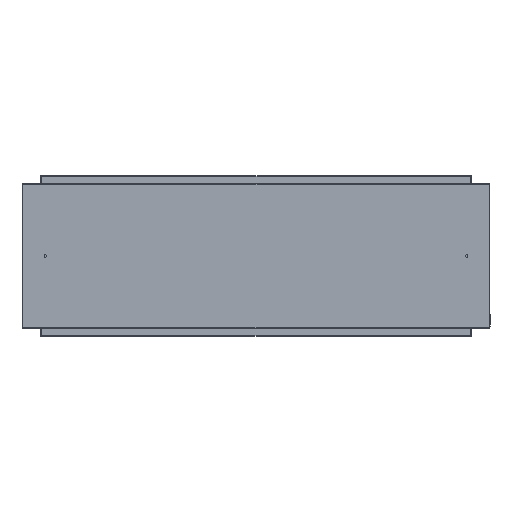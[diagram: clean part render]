
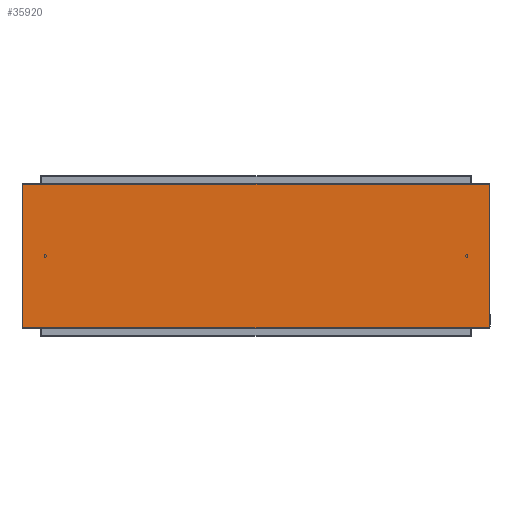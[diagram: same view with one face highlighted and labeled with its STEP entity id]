
A CAD part, left-side view. The second image highlights one B-rep face of the part: STEP entity #35920.
In plain terms, the highlighted planar face has unit normal (-1, 0, 0) as drawn and (0, 0, -1) by its records, which use the part's own axes.
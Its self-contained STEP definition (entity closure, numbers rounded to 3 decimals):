
#4226 = EDGE_LOOP ( 'NONE', ( #16813, #35902, #54496, #31749 ) ) ;
#7118 = CARTESIAN_POINT ( 'NONE',  ( -183.49, 598.5, 0. ) ) ;
#10477 = VECTOR ( 'NONE', #44167, 1000. ) ;
#10802 = CARTESIAN_POINT ( 'NONE',  ( -183.49, 598.5, 0. ) ) ;
#12614 = LINE ( 'NONE', #32682, #40990 ) ;
#16364 = VERTEX_POINT ( 'NONE', #24926 ) ;
#16704 = LINE ( 'NONE', #29810, #36719 ) ;
#16813 = ORIENTED_EDGE ( 'NONE', *, *, #55235, .F. ) ;
#21724 = DIRECTION ( 'NONE',  ( 1., 0., 0. ) ) ;
#21953 = CARTESIAN_POINT ( 'NONE',  ( 183.49, 598.5, 0. ) ) ;
#24926 = CARTESIAN_POINT ( 'NONE',  ( 183.49, -598.5, 0. ) ) ;
#26546 = VERTEX_POINT ( 'NONE', #10802 ) ;
#27061 = PLANE ( 'NONE',  #55684 ) ;
#29810 = CARTESIAN_POINT ( 'NONE',  ( -183.49, -598.5, 0. ) ) ;
#31697 = EDGE_CURVE ( 'NONE', #80983, #16364, #16704, .T. ) ;
#31733 = EDGE_CURVE ( 'NONE', #16364, #78369, #56910, .T. ) ;
#31749 = ORIENTED_EDGE ( 'NONE', *, *, #31697, .F. ) ;
#32682 = CARTESIAN_POINT ( 'NONE',  ( -183.49, 598.5, 0. ) ) ;
#35902 = ORIENTED_EDGE ( 'NONE', *, *, #81122, .F. ) ;
#35920 = ADVANCED_FACE ( 'NONE', ( #72292 ), #27061, .F. ) ;
#36719 = VECTOR ( 'NONE', #48735, 1000. ) ;
#40585 = DIRECTION ( 'NONE',  ( 0., 0., 1. ) ) ;
#40990 = VECTOR ( 'NONE', #62328, 1000. ) ;
#44167 = DIRECTION ( 'NONE',  ( 0., 1., 0. ) ) ;
#46377 = CARTESIAN_POINT ( 'NONE',  ( -183.49, 598.5, 0. ) ) ;
#48735 = DIRECTION ( 'NONE',  ( 1., 0., 0. ) ) ;
#54496 = ORIENTED_EDGE ( 'NONE', *, *, #31733, .F. ) ;
#55235 = EDGE_CURVE ( 'NONE', #26546, #80983, #12614, .T. ) ;
#55684 = AXIS2_PLACEMENT_3D ( 'NONE', #46377, #40585, #21724 ) ;
#56910 = LINE ( 'NONE', #68461, #10477 ) ;
#62328 = DIRECTION ( 'NONE',  ( 0., -1., 0. ) ) ;
#68461 = CARTESIAN_POINT ( 'NONE',  ( 183.49, 598.5, 0. ) ) ;
#71944 = DIRECTION ( 'NONE',  ( -1., 0., 0. ) ) ;
#72292 = FACE_OUTER_BOUND ( 'NONE', #4226, .T. ) ;
#74981 = CARTESIAN_POINT ( 'NONE',  ( -183.49, -598.5, 0. ) ) ;
#75620 = VECTOR ( 'NONE', #71944, 1000. ) ;
#78115 = LINE ( 'NONE', #7118, #75620 ) ;
#78369 = VERTEX_POINT ( 'NONE', #21953 ) ;
#80983 = VERTEX_POINT ( 'NONE', #74981 ) ;
#81122 = EDGE_CURVE ( 'NONE', #78369, #26546, #78115, .T. ) ;
